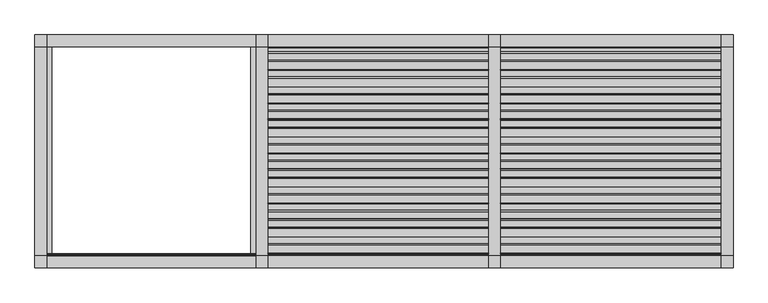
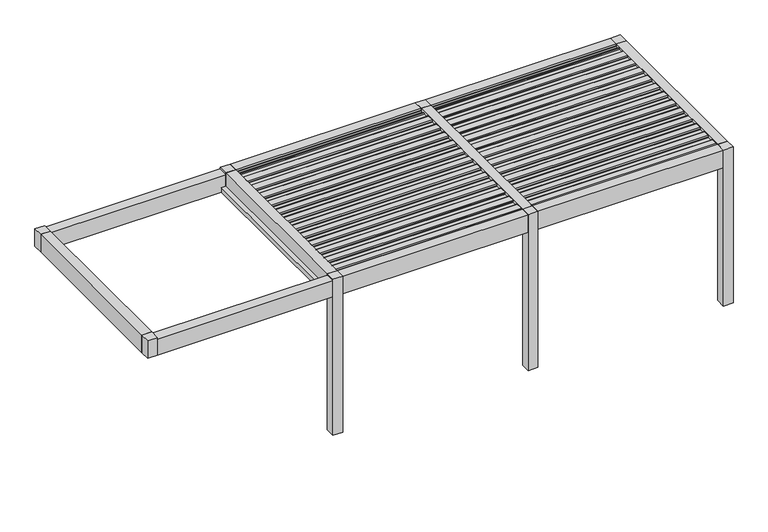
"""IFC4 building model written with IfcOpenShell, lengths in millimetres: proxy geometry, Renson_Amani_Patio_Cover : Renson_Amani_Patio_Cover."""

from ifc_helpers import new_model, si_unit, point, frame, frame_2d, origin, origin_with_axes, place, context, project, spatial, polyline, circle_curve, trimmed, segment, composite_curve, outline, extrude, source, transform, mapped, element, save


def generic_models_5641a38b(model_context):
    return source(origin(), model_context, "Body", "SweptSolid", [
        extrude(outline(composite_curve([segment(polyline([(-1073.7289238, 2483.35), (-1076.1490335, 2511.01198), (-1104.984284, 2512.3970364), (-1101.5469529, 2531.8911096), (-991.549838, 2526.6075693)]), True, "CONTINUOUS"), segment(trimmed(circle_curve(frame_2d((-992.26951, 2511.6248435)), 15.0), [point((-991.549838, 2526.6075693))], [point((-977.4973937, 2514.2295662))], False, "CARTESIAN"), True, "CONTINUOUS"), segment(polyline([(-977.4973937, 2514.2295662), (-974.1067023, 2495.0), (-886.3709263, 2495.0), (-883.3594689, 2512.0788237), (-868.0824984, 2511.3450182), (-865.6332517, 2483.35), (-1073.7289238, 2483.35)]), True, "CONTINUOUS")], self_intersect=False)), frame((4500.0, 0.0, 0.0), z_axis=(1.0, 0.0, 0.0), x_axis=(0.0, 1.0, 0.0)), (0.0, 0.0, 1.0), 2850.0),
        extrude(outline(composite_curve([segment(polyline([(-858.7132078, 2483.35), (-861.1333174, 2511.01198), (-889.9685679, 2512.3970364), (-886.5312368, 2531.8911096), (-776.534122, 2526.6075693)]), True, "CONTINUOUS"), segment(trimmed(circle_curve(frame_2d((-777.2537939, 2511.6248435)), 15.0), [point((-776.534122, 2526.6075693))], [point((-762.4816776, 2514.2295662))], False, "CARTESIAN"), True, "CONTINUOUS"), segment(polyline([(-762.4816776, 2514.2295662), (-759.0909863, 2495.0), (-671.3552102, 2495.0), (-668.3437528, 2512.0788237), (-653.0667824, 2511.3450182), (-650.6175356, 2483.35), (-858.7132078, 2483.35)]), True, "CONTINUOUS")], self_intersect=False)), frame((4500.0, 0.0, 0.0), z_axis=(1.0, 0.0, 0.0), x_axis=(0.0, 1.0, 0.0)), (0.0, 0.0, 1.0), 2850.0),
        extrude(outline(composite_curve([segment(polyline([(-643.6974917, 2483.35), (-646.1176014, 2511.01198), (-674.9528519, 2512.3970364), (-671.5155208, 2531.8911096), (-561.5184059, 2526.6075693)]), True, "CONTINUOUS"), segment(trimmed(circle_curve(frame_2d((-562.2380779, 2511.6248435)), 15.0), [point((-561.5184059, 2526.6075693))], [point((-547.4659616, 2514.2295662))], False, "CARTESIAN"), True, "CONTINUOUS"), segment(polyline([(-547.4659616, 2514.2295662), (-544.0752702, 2495.0), (-456.3394942, 2495.0), (-453.3280368, 2512.0788237), (-438.0510663, 2511.3450182), (-435.6018196, 2483.35), (-643.6974917, 2483.35)]), True, "CONTINUOUS")], self_intersect=False)), frame((4500.0, 0.0, 0.0), z_axis=(1.0, 0.0, 0.0), x_axis=(0.0, 1.0, 0.0)), (0.0, 0.0, 1.0), 2850.0),
        extrude(outline(composite_curve([segment(polyline([(-428.6817757, 2483.35), (-431.1018854, 2511.01198), (-459.9371358, 2512.3970364), (-456.4998047, 2531.8911096), (-346.5026899, 2526.6075693)]), True, "CONTINUOUS"), segment(trimmed(circle_curve(frame_2d((-347.2223618, 2511.6248435)), 15.0), [point((-346.5026899, 2526.6075693))], [point((-332.4502455, 2514.2295662))], False, "CARTESIAN"), True, "CONTINUOUS"), segment(polyline([(-332.4502455, 2514.2295662), (-329.0595542, 2495.0), (-241.3237782, 2495.0), (-238.3123207, 2512.0788237), (-223.0353503, 2511.3450182), (-220.5861035, 2483.35), (-428.6817757, 2483.35)]), True, "CONTINUOUS")], self_intersect=False)), frame((4500.0, 0.0, 0.0), z_axis=(1.0, 0.0, 0.0), x_axis=(0.0, 1.0, 0.0)), (0.0, 0.0, 1.0), 2850.0),
        extrude(outline(composite_curve([segment(polyline([(-213.6660597, 2483.35), (-216.0861693, 2511.01198), (-244.9214198, 2512.3970364), (-241.4840887, 2531.8911096), (-131.4869738, 2526.6075693)]), True, "CONTINUOUS"), segment(trimmed(circle_curve(frame_2d((-132.2066458, 2511.6248435)), 15.0), [point((-131.4869738, 2526.6075693))], [point((-117.4345295, 2514.2295662))], False, "CARTESIAN"), True, "CONTINUOUS"), segment(polyline([(-117.4345295, 2514.2295662), (-114.0438381, 2495.0), (-26.3080621, 2495.0), (-23.2966047, 2512.0788237), (-8.0196342, 2511.3450182), (-5.5703875, 2483.35), (-213.6660597, 2483.35)]), True, "CONTINUOUS")], self_intersect=False)), frame((4500.0, 0.0, 0.0), z_axis=(1.0, 0.0, 0.0), x_axis=(0.0, 1.0, 0.0)), (0.0, 0.0, 1.0), 2850.0),
        extrude(outline(composite_curve([segment(polyline([(1.3496564, 2483.35), (-1.0704533, 2511.01198), (-29.9057037, 2512.3970364), (-26.4683726, 2531.8911096), (83.5287422, 2526.6075693)]), True, "CONTINUOUS"), segment(trimmed(circle_curve(frame_2d((82.8090703, 2511.6248435)), 15.0), [point((83.5287422, 2526.6075693))], [point((97.5811866, 2514.2295662))], False, "CARTESIAN"), True, "CONTINUOUS"), segment(polyline([(97.5811866, 2514.2295662), (100.9718779, 2495.0), (188.7076539, 2495.0), (191.7191114, 2512.0788237), (206.9960818, 2511.3450182), (209.4453286, 2483.35), (1.3496564, 2483.35)]), True, "CONTINUOUS")], self_intersect=False)), frame((4500.0, 0.0, 0.0), z_axis=(1.0, 0.0, 0.0), x_axis=(0.0, 1.0, 0.0)), (0.0, 0.0, 1.0), 2850.0),
        extrude(outline(composite_curve([segment(polyline([(216.3653724, 2483.35), (213.9452628, 2511.01198), (185.1100123, 2512.3970364), (188.5473434, 2531.8911096), (298.5444582, 2526.6075693)]), True, "CONTINUOUS"), segment(trimmed(circle_curve(frame_2d((297.8247863, 2511.6248435)), 15.0), [point((298.5444582, 2526.6075693))], [point((312.5969026, 2514.2295662))], False, "CARTESIAN"), True, "CONTINUOUS"), segment(polyline([(312.5969026, 2514.2295662), (315.987594, 2495.0), (403.72337, 2495.0), (406.7348274, 2512.0788237), (422.0117979, 2511.3450182), (424.4610446, 2483.35), (216.3653724, 2483.35)]), True, "CONTINUOUS")], self_intersect=False)), frame((4500.0, 0.0, 0.0), z_axis=(1.0, 0.0, 0.0), x_axis=(0.0, 1.0, 0.0)), (0.0, 0.0, 1.0), 2850.0),
        extrude(outline(composite_curve([segment(polyline([(431.3810885, 2483.35), (428.9609788, 2511.01198), (400.1257284, 2512.3970364), (403.5630594, 2531.8911096), (513.5601743, 2526.6075693)]), True, "CONTINUOUS"), segment(trimmed(circle_curve(frame_2d((512.8405024, 2511.6248435)), 15.0), [point((513.5601743, 2526.6075693))], [point((527.6126187, 2514.2295662))], False, "CARTESIAN"), True, "CONTINUOUS"), segment(polyline([(527.6126187, 2514.2295662), (531.00331, 2495.0), (618.739086, 2495.0), (621.7505434, 2512.0788237), (637.0275139, 2511.3450182), (639.4767606, 2483.35), (431.3810885, 2483.35)]), True, "CONTINUOUS")], self_intersect=False)), frame((4500.0, 0.0, 0.0), z_axis=(1.0, 0.0, 0.0), x_axis=(0.0, 1.0, 0.0)), (0.0, 0.0, 1.0), 2850.0),
        extrude(outline(composite_curve([segment(polyline([(646.3968045, 2483.35), (643.9766949, 2511.01198), (615.1414444, 2512.3970364), (618.5787755, 2531.8911096), (728.5758903, 2526.6075693)]), True, "CONTINUOUS"), segment(trimmed(circle_curve(frame_2d((727.8562184, 2511.6248435)), 15.0), [point((728.5758903, 2526.6075693))], [point((742.6283347, 2514.2295662))], False, "CARTESIAN"), True, "CONTINUOUS"), segment(polyline([(742.6283347, 2514.2295662), (746.019026, 2495.0), (833.7548021, 2495.0), (836.7662595, 2512.0788237), (852.04323, 2511.3450182), (854.4924767, 2483.35), (646.3968045, 2483.35)]), True, "CONTINUOUS")], self_intersect=False)), frame((4500.0, 0.0, 0.0), z_axis=(1.0, 0.0, 0.0), x_axis=(0.0, 1.0, 0.0)), (0.0, 0.0, 1.0), 2850.0),
        extrude(outline(composite_curve([segment(polyline([(861.4125206, 2483.35), (858.9924109, 2511.01198), (830.1571605, 2512.3970364), (833.5944915, 2531.8911096), (943.5916064, 2526.6075693)]), True, "CONTINUOUS"), segment(trimmed(circle_curve(frame_2d((942.8719345, 2511.6248435)), 15.0), [point((943.5916064, 2526.6075693))], [point((957.6440508, 2514.2295662))], False, "CARTESIAN"), True, "CONTINUOUS"), segment(polyline([(957.6440508, 2514.2295662), (961.0347421, 2495.0), (1048.7705181, 2495.0), (1051.7819755, 2512.0788237), (1067.058946, 2511.3450182), (1069.5081927, 2483.35), (861.4125206, 2483.35)]), True, "CONTINUOUS")], self_intersect=False)), frame((4500.0, 0.0, 0.0), z_axis=(1.0, 0.0, 0.0), x_axis=(0.0, 1.0, 0.0)), (0.0, 0.0, 1.0), 2850.0),
        extrude(outline(composite_curve([segment(polyline([(-1288.7446399, 2483.35), (-1291.1647495, 2511.01198), (-1320.0, 2512.3970364), (-1316.5626689, 2531.8911096), (-1206.5655541, 2526.6075693)]), True, "CONTINUOUS"), segment(trimmed(circle_curve(frame_2d((-1207.285226, 2511.6248435)), 15.0), [point((-1206.5655541, 2526.6075693))], [point((-1192.5131097, 2514.2295662))], False, "CARTESIAN"), True, "CONTINUOUS"), segment(polyline([(-1192.5131097, 2514.2295662), (-1189.1224184, 2495.0), (-1101.3866423, 2495.0), (-1098.3751849, 2512.0788237), (-1083.0982144, 2511.3450182), (-1080.6489677, 2483.35), (-1288.7446399, 2483.35)]), True, "CONTINUOUS")], self_intersect=False)), frame((4500.0, 0.0, 0.0), z_axis=(1.0, 0.0, 0.0), x_axis=(0.0, 1.0, 0.0)), (0.0, 0.0, 1.0), 2850.0),
        extrude(outline(composite_curve([segment(polyline([(1076.4282366, 2483.35), (1074.008127, 2511.01198), (1045.1728765, 2512.3970364), (1048.6102076, 2531.8911096), (1158.6073224, 2526.6075693)]), True, "CONTINUOUS"), segment(trimmed(circle_curve(frame_2d((1157.8876505, 2511.6248435)), 15.0), [point((1158.6073224, 2526.6075693))], [point((1172.6597668, 2514.2295662))], False, "CARTESIAN"), True, "CONTINUOUS"), segment(polyline([(1172.6597668, 2514.2295662), (1176.0504581, 2495.0), (1263.7862342, 2495.0), (1266.7976916, 2512.0788237), (1282.0746621, 2511.3450182), (1284.5239088, 2483.35), (1076.4282366, 2483.35)]), True, "CONTINUOUS")], self_intersect=False)), frame((4500.0, 0.0, 0.0), z_axis=(1.0, 0.0, 0.0), x_axis=(0.0, 1.0, 0.0)), (0.0, 0.0, 1.0), 2850.0),
        extrude(outline(composite_curve([segment(polyline([(-1073.7289238, 2483.35), (-1076.1490335, 2511.01198), (-1104.984284, 2512.3970364), (-1101.5469529, 2531.8911096), (-991.549838, 2526.6075693)]), True, "CONTINUOUS"), segment(trimmed(circle_curve(frame_2d((-992.26951, 2511.6248435)), 15.0), [point((-991.549838, 2526.6075693))], [point((-977.4973937, 2514.2295662))], False, "CARTESIAN"), True, "CONTINUOUS"), segment(polyline([(-977.4973937, 2514.2295662), (-974.1067023, 2495.0), (-886.3709263, 2495.0), (-883.3594689, 2512.0788237), (-868.0824984, 2511.3450182), (-865.6332517, 2483.35), (-1073.7289238, 2483.35)]), True, "CONTINUOUS")], self_intersect=False)), frame((1500.0, 0.0, 0.0), z_axis=(1.0, 0.0, 0.0), x_axis=(0.0, 1.0, 0.0)), (0.0, 0.0, 1.0), 2850.0),
        extrude(outline(composite_curve([segment(polyline([(-858.7132078, 2483.35), (-861.1333174, 2511.01198), (-889.9685679, 2512.3970364), (-886.5312368, 2531.8911096), (-776.534122, 2526.6075693)]), True, "CONTINUOUS"), segment(trimmed(circle_curve(frame_2d((-777.2537939, 2511.6248435)), 15.0), [point((-776.534122, 2526.6075693))], [point((-762.4816776, 2514.2295662))], False, "CARTESIAN"), True, "CONTINUOUS"), segment(polyline([(-762.4816776, 2514.2295662), (-759.0909863, 2495.0), (-671.3552102, 2495.0), (-668.3437528, 2512.0788237), (-653.0667824, 2511.3450182), (-650.6175356, 2483.35), (-858.7132078, 2483.35)]), True, "CONTINUOUS")], self_intersect=False)), frame((1500.0, 0.0, 0.0), z_axis=(1.0, 0.0, 0.0), x_axis=(0.0, 1.0, 0.0)), (0.0, 0.0, 1.0), 2850.0),
        extrude(outline(composite_curve([segment(polyline([(-643.6974917, 2483.35), (-646.1176014, 2511.01198), (-674.9528519, 2512.3970364), (-671.5155208, 2531.8911096), (-561.5184059, 2526.6075693)]), True, "CONTINUOUS"), segment(trimmed(circle_curve(frame_2d((-562.2380779, 2511.6248435)), 15.0), [point((-561.5184059, 2526.6075693))], [point((-547.4659616, 2514.2295662))], False, "CARTESIAN"), True, "CONTINUOUS"), segment(polyline([(-547.4659616, 2514.2295662), (-544.0752702, 2495.0), (-456.3394942, 2495.0), (-453.3280368, 2512.0788237), (-438.0510663, 2511.3450182), (-435.6018196, 2483.35), (-643.6974917, 2483.35)]), True, "CONTINUOUS")], self_intersect=False)), frame((1500.0, 0.0, 0.0), z_axis=(1.0, 0.0, 0.0), x_axis=(0.0, 1.0, 0.0)), (0.0, 0.0, 1.0), 2850.0),
        extrude(outline(composite_curve([segment(polyline([(-428.6817757, 2483.35), (-431.1018854, 2511.01198), (-459.9371358, 2512.3970364), (-456.4998047, 2531.8911096), (-346.5026899, 2526.6075693)]), True, "CONTINUOUS"), segment(trimmed(circle_curve(frame_2d((-347.2223618, 2511.6248435)), 15.0), [point((-346.5026899, 2526.6075693))], [point((-332.4502455, 2514.2295662))], False, "CARTESIAN"), True, "CONTINUOUS"), segment(polyline([(-332.4502455, 2514.2295662), (-329.0595542, 2495.0), (-241.3237782, 2495.0), (-238.3123207, 2512.0788237), (-223.0353503, 2511.3450182), (-220.5861035, 2483.35), (-428.6817757, 2483.35)]), True, "CONTINUOUS")], self_intersect=False)), frame((1500.0, 0.0, 0.0), z_axis=(1.0, 0.0, 0.0), x_axis=(0.0, 1.0, 0.0)), (0.0, 0.0, 1.0), 2850.0),
        extrude(outline(composite_curve([segment(polyline([(-213.6660597, 2483.35), (-216.0861693, 2511.01198), (-244.9214198, 2512.3970364), (-241.4840887, 2531.8911096), (-131.4869738, 2526.6075693)]), True, "CONTINUOUS"), segment(trimmed(circle_curve(frame_2d((-132.2066458, 2511.6248435)), 15.0), [point((-131.4869738, 2526.6075693))], [point((-117.4345295, 2514.2295662))], False, "CARTESIAN"), True, "CONTINUOUS"), segment(polyline([(-117.4345295, 2514.2295662), (-114.0438381, 2495.0), (-26.3080621, 2495.0), (-23.2966047, 2512.0788237), (-8.0196342, 2511.3450182), (-5.5703875, 2483.35), (-213.6660597, 2483.35)]), True, "CONTINUOUS")], self_intersect=False)), frame((1500.0, 0.0, 0.0), z_axis=(1.0, 0.0, 0.0), x_axis=(0.0, 1.0, 0.0)), (0.0, 0.0, 1.0), 2850.0),
        extrude(outline(composite_curve([segment(polyline([(1.3496564, 2483.35), (-1.0704533, 2511.01198), (-29.9057037, 2512.3970364), (-26.4683726, 2531.8911096), (83.5287422, 2526.6075693)]), True, "CONTINUOUS"), segment(trimmed(circle_curve(frame_2d((82.8090703, 2511.6248435)), 15.0), [point((83.5287422, 2526.6075693))], [point((97.5811866, 2514.2295662))], False, "CARTESIAN"), True, "CONTINUOUS"), segment(polyline([(97.5811866, 2514.2295662), (100.9718779, 2495.0), (188.7076539, 2495.0), (191.7191114, 2512.0788237), (206.9960818, 2511.3450182), (209.4453286, 2483.35), (1.3496564, 2483.35)]), True, "CONTINUOUS")], self_intersect=False)), frame((1500.0, 0.0, 0.0), z_axis=(1.0, 0.0, 0.0), x_axis=(0.0, 1.0, 0.0)), (0.0, 0.0, 1.0), 2850.0),
        extrude(outline(composite_curve([segment(polyline([(216.3653724, 2483.35), (213.9452628, 2511.01198), (185.1100123, 2512.3970364), (188.5473434, 2531.8911096), (298.5444582, 2526.6075693)]), True, "CONTINUOUS"), segment(trimmed(circle_curve(frame_2d((297.8247863, 2511.6248435)), 15.0), [point((298.5444582, 2526.6075693))], [point((312.5969026, 2514.2295662))], False, "CARTESIAN"), True, "CONTINUOUS"), segment(polyline([(312.5969026, 2514.2295662), (315.987594, 2495.0), (403.72337, 2495.0), (406.7348274, 2512.0788237), (422.0117979, 2511.3450182), (424.4610446, 2483.35), (216.3653724, 2483.35)]), True, "CONTINUOUS")], self_intersect=False)), frame((1500.0, 0.0, 0.0), z_axis=(1.0, 0.0, 0.0), x_axis=(0.0, 1.0, 0.0)), (0.0, 0.0, 1.0), 2850.0),
        extrude(outline(composite_curve([segment(polyline([(431.3810885, 2483.35), (428.9609788, 2511.01198), (400.1257284, 2512.3970364), (403.5630594, 2531.8911096), (513.5601743, 2526.6075693)]), True, "CONTINUOUS"), segment(trimmed(circle_curve(frame_2d((512.8405024, 2511.6248435)), 15.0), [point((513.5601743, 2526.6075693))], [point((527.6126187, 2514.2295662))], False, "CARTESIAN"), True, "CONTINUOUS"), segment(polyline([(527.6126187, 2514.2295662), (531.00331, 2495.0), (618.739086, 2495.0), (621.7505434, 2512.0788237), (637.0275139, 2511.3450182), (639.4767606, 2483.35), (431.3810885, 2483.35)]), True, "CONTINUOUS")], self_intersect=False)), frame((1500.0, 0.0, 0.0), z_axis=(1.0, 0.0, 0.0), x_axis=(0.0, 1.0, 0.0)), (0.0, 0.0, 1.0), 2850.0),
        extrude(outline(composite_curve([segment(polyline([(646.3968045, 2483.35), (643.9766949, 2511.01198), (615.1414444, 2512.3970364), (618.5787755, 2531.8911096), (728.5758903, 2526.6075693)]), True, "CONTINUOUS"), segment(trimmed(circle_curve(frame_2d((727.8562184, 2511.6248435)), 15.0), [point((728.5758903, 2526.6075693))], [point((742.6283347, 2514.2295662))], False, "CARTESIAN"), True, "CONTINUOUS"), segment(polyline([(742.6283347, 2514.2295662), (746.019026, 2495.0), (833.7548021, 2495.0), (836.7662595, 2512.0788237), (852.04323, 2511.3450182), (854.4924767, 2483.35), (646.3968045, 2483.35)]), True, "CONTINUOUS")], self_intersect=False)), frame((1500.0, 0.0, 0.0), z_axis=(1.0, 0.0, 0.0), x_axis=(0.0, 1.0, 0.0)), (0.0, 0.0, 1.0), 2850.0),
        extrude(outline(composite_curve([segment(polyline([(861.4125206, 2483.35), (858.9924109, 2511.01198), (830.1571605, 2512.3970364), (833.5944915, 2531.8911096), (943.5916064, 2526.6075693)]), True, "CONTINUOUS"), segment(trimmed(circle_curve(frame_2d((942.8719345, 2511.6248435)), 15.0), [point((943.5916064, 2526.6075693))], [point((957.6440508, 2514.2295662))], False, "CARTESIAN"), True, "CONTINUOUS"), segment(polyline([(957.6440508, 2514.2295662), (961.0347421, 2495.0), (1048.7705181, 2495.0), (1051.7819755, 2512.0788237), (1067.058946, 2511.3450182), (1069.5081927, 2483.35), (861.4125206, 2483.35)]), True, "CONTINUOUS")], self_intersect=False)), frame((1500.0, 0.0, 0.0), z_axis=(1.0, 0.0, 0.0), x_axis=(0.0, 1.0, 0.0)), (0.0, 0.0, 1.0), 2850.0),
        extrude(outline(composite_curve([segment(polyline([(-1288.7446399, 2483.35), (-1291.1647495, 2511.01198), (-1320.0, 2512.3970364), (-1316.5626689, 2531.8911096), (-1206.5655541, 2526.6075693)]), True, "CONTINUOUS"), segment(trimmed(circle_curve(frame_2d((-1207.285226, 2511.6248435)), 15.0), [point((-1206.5655541, 2526.6075693))], [point((-1192.5131097, 2514.2295662))], False, "CARTESIAN"), True, "CONTINUOUS"), segment(polyline([(-1192.5131097, 2514.2295662), (-1189.1224184, 2495.0), (-1101.3866423, 2495.0), (-1098.3751849, 2512.0788237), (-1083.0982144, 2511.3450182), (-1080.6489677, 2483.35), (-1288.7446399, 2483.35)]), True, "CONTINUOUS")], self_intersect=False)), frame((1500.0, 0.0, 0.0), z_axis=(1.0, 0.0, 0.0), x_axis=(0.0, 1.0, 0.0)), (0.0, 0.0, 1.0), 2850.0),
        extrude(outline(composite_curve([segment(polyline([(1076.4282366, 2483.35), (1074.008127, 2511.01198), (1045.1728765, 2512.3970364), (1048.6102076, 2531.8911096), (1158.6073224, 2526.6075693)]), True, "CONTINUOUS"), segment(trimmed(circle_curve(frame_2d((1157.8876505, 2511.6248435)), 15.0), [point((1158.6073224, 2526.6075693))], [point((1172.6597668, 2514.2295662))], False, "CARTESIAN"), True, "CONTINUOUS"), segment(polyline([(1172.6597668, 2514.2295662), (1176.0504581, 2495.0), (1263.7862342, 2495.0), (1266.7976916, 2512.0788237), (1282.0746621, 2511.3450182), (1284.5239088, 2483.35), (1076.4282366, 2483.35)]), True, "CONTINUOUS")], self_intersect=False)), frame((1500.0, 0.0, 0.0), z_axis=(1.0, 0.0, 0.0), x_axis=(0.0, 1.0, 0.0)), (0.0, 0.0, 1.0), 2850.0),
        extrude(outline(polyline([(7500.0, -1350.0), (7500.0, -1500.0), (7350.0, -1500.0), (7350.0, -1350.0), (7500.0, -1350.0)])), origin_with_axes(), (0.0, 0.0, 1.0), 2535.0),
        extrude(outline(polyline([(7500.0, 1500.0), (7500.0, 1350.0), (7350.0, 1350.0), (7350.0, 1500.0), (7500.0, 1500.0)])), frame((0.0, 0.0, 2250.0), z_axis=(0.0, 0.0, 1.0), x_axis=(1.0, 0.0, 0.0)), (0.0, 0.0, 1.0), 285.0),
        extrude(outline(polyline([(4500.0, 1350.0), (4350.0, 1350.0), (4350.0, 1500.0), (4500.0, 1500.0), (4500.0, 1350.0)])), frame((0.0, 0.0, 2250.0), z_axis=(0.0, 0.0, 1.0), x_axis=(1.0, 0.0, 0.0)), (0.0, 0.0, 1.0), 285.0),
        extrude(outline(polyline([(1500.0, 1500.0), (1500.0, 1350.0), (1350.0, 1350.0), (1350.0, 1500.0), (1500.0, 1500.0)])), frame((0.0, 0.0, 2250.0), z_axis=(0.0, 0.0, 1.0), x_axis=(1.0, 0.0, 0.0)), (0.0, 0.0, 1.0), 285.0),
        extrude(outline(polyline([(-1350.0, 1500.0), (-1350.0, 1350.0), (-1500.0, 1350.0), (-1500.0, 1500.0), (-1350.0, 1500.0)])), frame((0.0, 0.0, 2250.0), z_axis=(0.0, 0.0, 1.0), x_axis=(1.0, 0.0, 0.0)), (0.0, 0.0, 1.0), 285.0),
        extrude(outline(polyline([(-1350.0, -1500.0), (-1500.0, -1500.0), (-1500.0, -1350.0), (-1350.0, -1350.0), (-1350.0, -1500.0)])), frame((0.0, 0.0, 2250.0), z_axis=(0.0, 0.0, 1.0), x_axis=(1.0, 0.0, 0.0)), (0.0, 0.0, 1.0), 285.0),
        extrude(outline(polyline([(4500.0, -1350.0), (4500.0, -1500.0), (4350.0, -1500.0), (4350.0, -1350.0), (4500.0, -1350.0)])), origin_with_axes(), (0.0, 0.0, 1.0), 2535.0),
        extrude(outline(polyline([(1500.0, -1350.0), (1500.0, -1500.0), (1350.0, -1500.0), (1350.0, -1350.0), (1500.0, -1350.0)])), origin_with_axes(), (0.0, 0.0, 1.0), 2535.0),
        extrude(outline(polyline([(1350.0, 2466.6559373), (1290.0, 2466.6559373), (1286.2487113, 2480.6555802), (1329.5940945, 2480.6555802), (1345.0, 2496.400763), (1345.0, 2504.2449277), (1350.0, 2504.6823598), (1350.0, 2466.6559373)])), frame((4500.0, 0.0, 0.0), z_axis=(1.0, 0.0, 0.0), x_axis=(0.0, 1.0, 0.0)), (0.0, 0.0, 1.0), 2850.0),
        extrude(outline(polyline([(-1350.0, 2504.6823598), (-1345.0, 2504.2449277), (-1345.0, 2496.400763), (-1329.2544156, 2480.6555802), (-1319.9090324, 2480.6555802), (-1323.6603211, 2466.6559373), (-1350.0, 2466.6559373), (-1350.0, 2250.0), (-1500.0, 2250.0), (-1500.0, 2535.0), (-1350.0, 2535.0), (-1350.0, 2504.6823598)])), frame((4500.0, 0.0, 0.0), z_axis=(1.0, 0.0, 0.0), x_axis=(0.0, 1.0, 0.0)), (0.0, 0.0, 1.0), 2850.0),
        extrude(outline(polyline([(7350.0, 1500.0), (7350.0, 1350.0), (4500.0, 1350.0), (4500.0, 1500.0), (7350.0, 1500.0)])), frame((0.0, 0.0, 2250.0), z_axis=(0.0, 0.0, 1.0), x_axis=(1.0, 0.0, 0.0)), (0.0, 0.0, 1.0), 285.0),
        extrude(outline(polyline([(2535.0, 4350.0), (2322.0, 4350.0), (2322.0, 4280.0000001), (2250.0, 4280.0000001), (2250.0, 4569.9999999), (2322.0, 4569.9999999), (2322.0, 4500.0), (2535.0, 4500.0), (2535.0, 4350.0)])), frame((0.0, -1350.0, 0.0), z_axis=(0.0, 1.0, 0.0), x_axis=(0.0, 0.0, 1.0)), (0.0, 0.0, 1.0), 2700.0),
        extrude(outline(polyline([(2535.0, 7350.0), (2322.0, 7350.0), (2322.0, 7280.0000001), (2250.0, 7280.0000001), (2250.0, 7500.0), (2535.0, 7500.0), (2535.0, 7350.0)])), frame((0.0, -1350.0, 0.0), z_axis=(0.0, 1.0, 0.0), x_axis=(0.0, 0.0, 1.0)), (0.0, 0.0, 1.0), 2700.0),
        extrude(outline(polyline([(1350.0, 2466.6559373), (1290.0, 2466.6559373), (1286.2487113, 2480.6555802), (1329.5940945, 2480.6555802), (1345.0, 2496.400763), (1345.0, 2504.2449277), (1350.0, 2504.6823598), (1350.0, 2466.6559373)])), frame((1500.0, 0.0, 0.0), z_axis=(1.0, 0.0, 0.0), x_axis=(0.0, 1.0, 0.0)), (0.0, 0.0, 1.0), 2850.0),
        extrude(outline(polyline([(4350.0, 1500.0), (4350.0, 1350.0), (1500.0, 1350.0), (1500.0, 1500.0), (4350.0, 1500.0)])), frame((0.0, 0.0, 2250.0), z_axis=(0.0, 0.0, 1.0), x_axis=(1.0, 0.0, 0.0)), (0.0, 0.0, 1.0), 285.0),
        extrude(outline(polyline([(-1350.0, 2250.0), (-1500.0, 2250.0), (-1500.0, 2535.0), (-1350.0, 2535.0), (-1350.0, 2504.6823598), (-1345.0, 2504.2449277), (-1345.0, 2496.400763), (-1329.2544156, 2480.6555802), (-1319.9090324, 2480.6555802), (-1323.6603211, 2466.6559373), (-1350.0, 2466.6559373), (-1350.0, 2250.0)])), frame((1500.0, 0.0, 0.0), z_axis=(1.0, 0.0, 0.0), x_axis=(0.0, 1.0, 0.0)), (0.0, 0.0, 1.0), 2850.0),
        extrude(outline(polyline([(2535.0, 1350.0), (2322.0, 1350.0), (2322.0, 1280.0000001), (2250.0, 1280.0000001), (2250.0, 1569.9999999), (2322.0, 1569.9999999), (2322.0, 1500.0), (2535.0, 1500.0), (2535.0, 1350.0)])), frame((0.0, -1350.0, 0.0), z_axis=(0.0, 1.0, 0.0), x_axis=(0.0, 0.0, 1.0)), (0.0, 0.0, 1.0), 2700.0),
        extrude(outline(polyline([(2535.0, 4350.0), (2322.0, 4350.0), (2322.0, 4280.0000001), (2250.0, 4280.0000001), (2250.0, 4500.0), (2535.0, 4500.0), (2535.0, 4350.0)])), frame((0.0, -1350.0, 0.0), z_axis=(0.0, 1.0, 0.0), x_axis=(0.0, 0.0, 1.0)), (0.0, 0.0, 1.0), 2700.0),
        extrude(outline(polyline([(-1350.0, 2510.0), (-1350.0, 2479.6823598), (-1345.0, 2479.2449277), (-1345.0, 2471.400763), (-1329.2544156, 2455.6555802), (-1319.9090324, 2455.6555802), (-1323.6603211, 2441.6559373), (-1350.0, 2441.6559373), (-1350.0, 2250.0), (-1500.0, 2250.0), (-1500.0, 2510.0), (-1350.0, 2510.0)])), frame((-1350.0, 0.0, 0.0), z_axis=(1.0, 0.0, 0.0), x_axis=(0.0, 1.0, 0.0)), (0.0, 0.0, 1.0), 2700.0),
        extrude(outline(polyline([(1350.0, 1500.0), (1350.0, 1350.0), (-1350.0, 1350.0), (-1350.0, 1500.0), (1350.0, 1500.0)])), frame((0.0, 0.0, 2250.0), z_axis=(0.0, 0.0, 1.0), x_axis=(1.0, 0.0, 0.0)), (0.0, 0.0, 1.0), 260.0),
        extrude(outline(polyline([(2535.0, -1350.0), (2535.0, -1500.0), (2250.0, -1500.0), (2250.0, -1280.0000001), (2322.0, -1280.0000001), (2322.0, -1350.0), (2535.0, -1350.0)])), frame((0.0, -1350.0, 0.0), z_axis=(0.0, 1.0, 0.0), x_axis=(0.0, 0.0, 1.0)), (0.0, 0.0, 1.0), 2700.0),
        extrude(outline(polyline([(2250.0, 1500.0), (2535.0, 1500.0), (2535.0, 1350.0), (2322.0, 1350.0), (2322.0, 1280.0000001), (2250.0, 1280.0000001), (2250.0, 1500.0)])), frame((0.0, -1350.0, 0.0), z_axis=(0.0, 1.0, 0.0), x_axis=(0.0, 0.0, 1.0)), (0.0, 0.0, 1.0), 2700.0),
    ])


if __name__ == "__main__":
    model = new_model("IFC4")
    model_context = context("Model", 3, world=origin())
    ifc_project = project(units=[si_unit("LENGTHUNIT", "METRE", prefix="MILLI")], contexts=[model_context])
    site = spatial("IfcSite", under=ifc_project)
    building = spatial("IfcBuilding", under=site)
    placement = place(None, origin())
    generic_models_shape = generic_models_5641a38b(model_context)
    element("IfcBuildingElementProxy", 1, Name="Renson_Amani_Patio_Cover : Renson_Amani_Patio_Cover", ObjectType="Renson_Amani_Patio_Cover : Renson_Amani_Patio_Cover", at=placement, inside=building, context=model_context, shape_type="MappedRepresentation", body=[
        mapped(generic_models_shape, transform((0.0, 0.0, 0.0), x_axis=(1.0, 0.0, 0.0), y_axis=(0.0, 1.0, 0.0), z_axis=(0.0, 0.0, 1.0))),
    ])
    save(model, "model.ifc")
